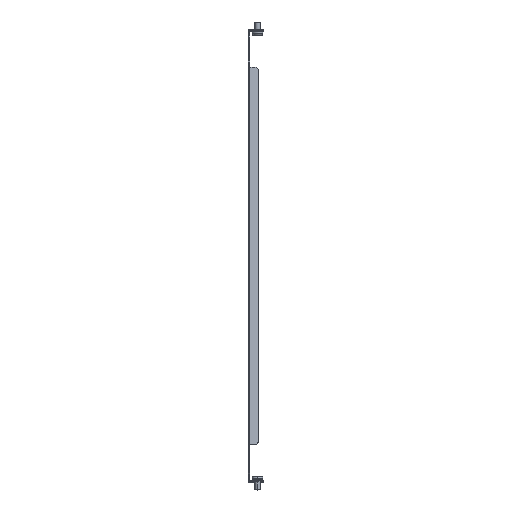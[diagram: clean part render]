
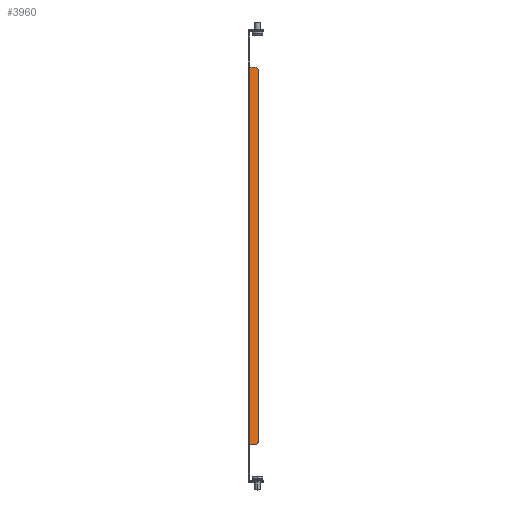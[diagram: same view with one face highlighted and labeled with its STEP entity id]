
A CAD part, top view. The second image highlights one B-rep face of the part: STEP entity #3960.
In plain terms, the highlighted planar face has unit normal (0.5, 0, 0.866).
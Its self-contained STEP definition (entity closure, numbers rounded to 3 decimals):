
#220 = ORIENTED_EDGE ( 'NONE', *, *, #17431, .T. ) ;
#472 = VECTOR ( 'NONE', #11275, 1000. ) ;
#687 = CARTESIAN_POINT ( 'NONE',  ( 1.268, 210.75, 174.464 ) ) ;
#1096 = DIRECTION ( 'NONE',  ( 0., -1., 0. ) ) ;
#1317 = VECTOR ( 'NONE', #17362, 1000. ) ;
#1492 = EDGE_CURVE ( 'NONE', #6590, #13136, #4465, .T. ) ;
#1804 = ORIENTED_EDGE ( 'NONE', *, *, #17587, .F. ) ;
#1866 = VECTOR ( 'NONE', #11114, 1000. ) ;
#2288 = VERTEX_POINT ( 'NONE', #8368 ) ;
#2576 = FACE_OUTER_BOUND ( 'NONE', #14309, .T. ) ;
#2758 = ORIENTED_EDGE ( 'NONE', *, *, #14735, .F. ) ;
#3098 = DIRECTION ( 'NONE',  ( -0.866, 0., 0.5 ) ) ;
#3139 = VECTOR ( 'NONE', #12720, 1000. ) ;
#3288 = LINE ( 'NONE', #16557, #15595 ) ;
#3960 = ADVANCED_FACE ( 'NONE', ( #2576 ), #10665, .F. ) ;
#4082 = DIRECTION ( 'NONE',  ( -0.5, 0., -0.866 ) ) ;
#4175 = CARTESIAN_POINT ( 'NONE',  ( 11.401, 210.75, 168.614 ) ) ;
#4465 = LINE ( 'NONE', #12639, #3139 ) ;
#4621 = LINE ( 'NONE', #8273, #16565 ) ;
#5134 = VECTOR ( 'NONE', #5327, 1000. ) ;
#5236 = CARTESIAN_POINT ( 'NONE',  ( 4.5, -210.75, 172.598 ) ) ;
#5327 = DIRECTION ( 'NONE',  ( -0.866, 0., 0.5 ) ) ;
#5497 = CARTESIAN_POINT ( 'NONE',  ( 74.737, 0., 132.047 ) ) ;
#5810 = VECTOR ( 'NONE', #1096, 1000. ) ;
#6282 = EDGE_CURVE ( 'NONE', #12968, #14958, #12282, .T. ) ;
#6590 = VERTEX_POINT ( 'NONE', #687 ) ;
#7116 = DIRECTION ( 'NONE',  ( -0.612, 0.707, 0.354 ) ) ;
#7206 = CARTESIAN_POINT ( 'NONE',  ( 11.401, 207.75, 168.614 ) ) ;
#7679 = CARTESIAN_POINT ( 'NONE',  ( 11.401, -210.75, 168.614 ) ) ;
#8200 = CARTESIAN_POINT ( 'NONE',  ( 4.5, 210.75, 172.598 ) ) ;
#8273 = CARTESIAN_POINT ( 'NONE',  ( 2.25, -210.75, 173.897 ) ) ;
#8329 = CARTESIAN_POINT ( 'NONE',  ( 8.803, -210.75, 170.114 ) ) ;
#8368 = CARTESIAN_POINT ( 'NONE',  ( 8.803, 210.75, 170.114 ) ) ;
#9110 = EDGE_CURVE ( 'NONE', #12968, #9330, #4621, .T. ) ;
#9111 = ORIENTED_EDGE ( 'NONE', *, *, #1492, .T. ) ;
#9330 = VERTEX_POINT ( 'NONE', #5236 ) ;
#9746 = AXIS2_PLACEMENT_3D ( 'NONE', #5497, #4082, #10579 ) ;
#10259 = EDGE_CURVE ( 'NONE', #10329, #2288, #3288, .T. ) ;
#10329 = VERTEX_POINT ( 'NONE', #7206 ) ;
#10579 = DIRECTION ( 'NONE',  ( -0.866, 0., 0.5 ) ) ;
#10665 = PLANE ( 'NONE',  #9746 ) ;
#10828 = ORIENTED_EDGE ( 'NONE', *, *, #15876, .F. ) ;
#10933 = LINE ( 'NONE', #4175, #472 ) ;
#11024 = CARTESIAN_POINT ( 'NONE',  ( 11.401, -207.75, 168.614 ) ) ;
#11114 = DIRECTION ( 'NONE',  ( 0.612, 0.707, -0.354 ) ) ;
#11275 = DIRECTION ( 'NONE',  ( 0.866, 0., -0.5 ) ) ;
#11745 = LINE ( 'NONE', #15766, #1317 ) ;
#12085 = CARTESIAN_POINT ( 'NONE',  ( 74.737, -210.75, 132.047 ) ) ;
#12282 = LINE ( 'NONE', #11024, #1866 ) ;
#12639 = CARTESIAN_POINT ( 'NONE',  ( 1.268, 0., 174.464 ) ) ;
#12669 = CARTESIAN_POINT ( 'NONE',  ( 1.268, -210.75, 174.464 ) ) ;
#12720 = DIRECTION ( 'NONE',  ( 0., -1., 0. ) ) ;
#12968 = VERTEX_POINT ( 'NONE', #8329 ) ;
#13136 = VERTEX_POINT ( 'NONE', #12669 ) ;
#13211 = ORIENTED_EDGE ( 'NONE', *, *, #10259, .T. ) ;
#13745 = VERTEX_POINT ( 'NONE', #8200 ) ;
#14309 = EDGE_LOOP ( 'NONE', ( #220, #9111, #2758, #17287, #16060, #10828, #13211, #1804 ) ) ;
#14735 = EDGE_CURVE ( 'NONE', #9330, #13136, #14764, .T. ) ;
#14764 = LINE ( 'NONE', #12085, #5134 ) ;
#14958 = VERTEX_POINT ( 'NONE', #15462 ) ;
#15462 = CARTESIAN_POINT ( 'NONE',  ( 11.401, -207.75, 168.614 ) ) ;
#15595 = VECTOR ( 'NONE', #7116, 1000. ) ;
#15694 = LINE ( 'NONE', #7679, #5810 ) ;
#15766 = CARTESIAN_POINT ( 'NONE',  ( 4.5, 210.75, 172.598 ) ) ;
#15876 = EDGE_CURVE ( 'NONE', #10329, #14958, #15694, .T. ) ;
#16060 = ORIENTED_EDGE ( 'NONE', *, *, #6282, .T. ) ;
#16557 = CARTESIAN_POINT ( 'NONE',  ( 8.803, 210.75, 170.114 ) ) ;
#16565 = VECTOR ( 'NONE', #3098, 1000. ) ;
#17287 = ORIENTED_EDGE ( 'NONE', *, *, #9110, .F. ) ;
#17362 = DIRECTION ( 'NONE',  ( -0.866, 0., 0.5 ) ) ;
#17431 = EDGE_CURVE ( 'NONE', #13745, #6590, #11745, .T. ) ;
#17587 = EDGE_CURVE ( 'NONE', #13745, #2288, #10933, .T. ) ;
